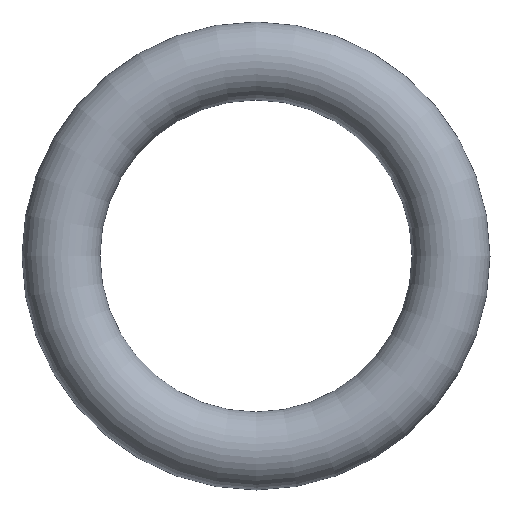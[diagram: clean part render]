
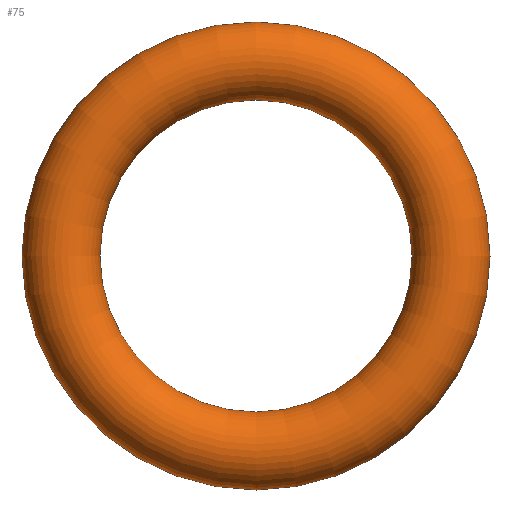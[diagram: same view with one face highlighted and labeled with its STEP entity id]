
A CAD part, front view. The second image highlights one B-rep face of the part: STEP entity #75.
In plain terms, the highlighted toroidal (fillet/blend) face has major radius 6.25 mm and minor radius 1.25 mm.
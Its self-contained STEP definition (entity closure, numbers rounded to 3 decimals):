
#75 = ADVANCED_FACE( '', ( #77 ), #78, .T. );
#77 = FACE_BOUND( '', #79, .T. );
#78 = TOROIDAL_SURFACE( '', #80, 6.25, 1.25 );
#79 = VERTEX_LOOP( '', #81 );
#80 = AXIS2_PLACEMENT_3D( '', #82, #83, #84 );
#81 = VERTEX_POINT( '', #85 );
#82 = CARTESIAN_POINT( '', ( 0., 0., 0. ) );
#83 = DIRECTION( '', ( 0., -1., 0. ) );
#84 = DIRECTION( '', ( 0., 0., -1. ) );
#85 = CARTESIAN_POINT( '', ( 0., 0., -7.5 ) );
